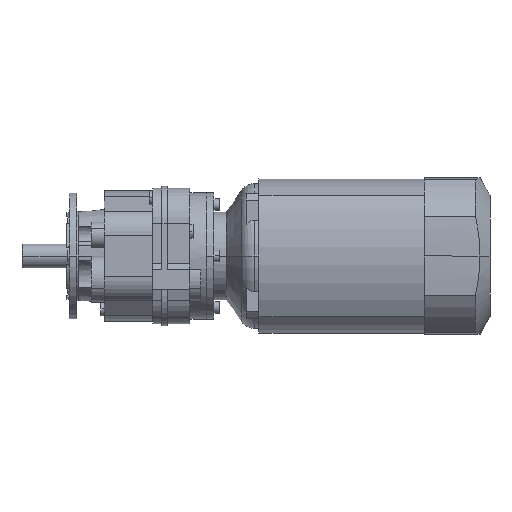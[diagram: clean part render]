
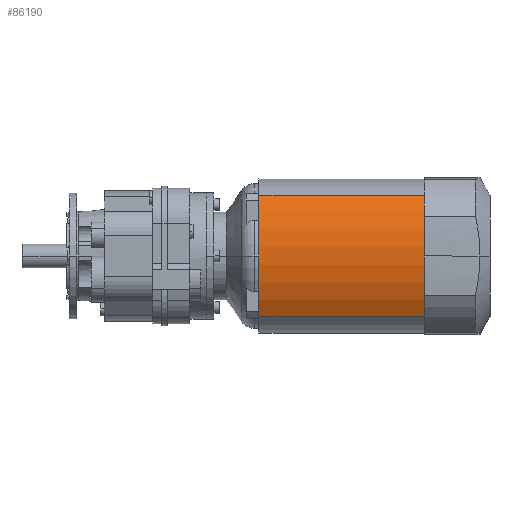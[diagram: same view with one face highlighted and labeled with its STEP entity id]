
A CAD part, front view. The second image highlights one B-rep face of the part: STEP entity #86190.
In plain terms, the highlighted cylindrical face has radius 152 mm (diameter 304 mm), a partial arc.
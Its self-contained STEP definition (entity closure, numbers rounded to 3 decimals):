
#85780=CARTESIAN_POINT('',(179.5,0.,54.));
#85790=DIRECTION('',(-1.,0.,0.));
#85800=DIRECTION('',(0.,0.,1.));
#85810=AXIS2_PLACEMENT_3D('',#85780,#85790,#85800);
#85820=CYLINDRICAL_SURFACE('',#85810,152.);
#85830=CARTESIAN_POINT('',(204.5,0.,54.));
#85840=DIRECTION('',(-1.,0.,0.));
#85850=DIRECTION('',(0.,0.,1.));
#85860=AXIS2_PLACEMENT_3D('',#85830,#85840,#85850);
#85870=CIRCLE('',#85860,152.);
#85880=CARTESIAN_POINT('',(204.5,77.034,-77.034));
#85890=VERTEX_POINT('',#85880);
#85900=CARTESIAN_POINT('',(204.5,-77.034,-77.034));
#85910=VERTEX_POINT('',#85900);
#85920=EDGE_CURVE('',#85890,#85910,#85870,.T.);
#85930=ORIENTED_EDGE('',*,*,#85920,.T.);
#85940=CARTESIAN_POINT('',(179.,77.034,-77.034));
#85950=DIRECTION('',(1.,0.,0.));
#85960=VECTOR('',#85950,1.);
#85970=LINE('',#85940,#85960);
#85980=CARTESIAN_POINT('',(-5.,77.034,-77.034));
#85990=VERTEX_POINT('',#85980);
#86000=EDGE_CURVE('',#85990,#85890,#85970,.T.);
#86010=ORIENTED_EDGE('',*,*,#86000,.T.);
#86020=CARTESIAN_POINT('',(-5.,0.,54.));
#86030=DIRECTION('',(-1.,0.,0.));
#86040=DIRECTION('',(0.,0.,1.));
#86050=AXIS2_PLACEMENT_3D('',#86020,#86030,#86040);
#86060=CIRCLE('',#86050,152.);
#86070=CARTESIAN_POINT('',(-5.,-77.034,-77.034));
#86080=VERTEX_POINT('',#86070);
#86090=EDGE_CURVE('',#85990,#86080,#86060,.T.);
#86100=ORIENTED_EDGE('',*,*,#86090,.F.);
#86110=CARTESIAN_POINT('',(179.5,-77.034,-77.034));
#86120=DIRECTION('',(-1.,0.,0.));
#86130=VECTOR('',#86120,1.);
#86140=LINE('',#86110,#86130);
#86150=EDGE_CURVE('',#85910,#86080,#86140,.T.);
#86160=ORIENTED_EDGE('',*,*,#86150,.T.);
#86170=EDGE_LOOP('',(#86160,#86100,#86010,#85930));
#86180=FACE_OUTER_BOUND('',#86170,.T.);
#86190=ADVANCED_FACE('',(#86180),#85820,.T.);
